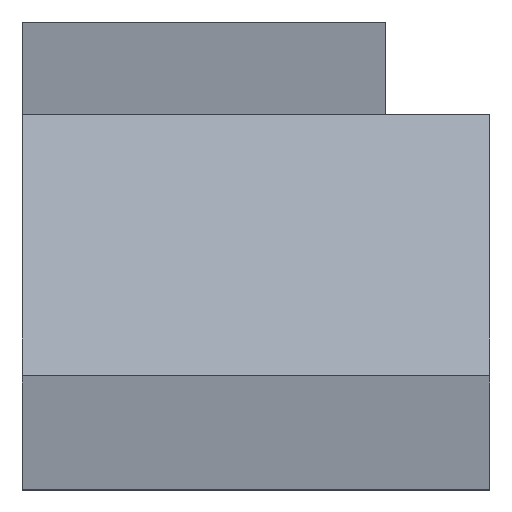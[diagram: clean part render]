
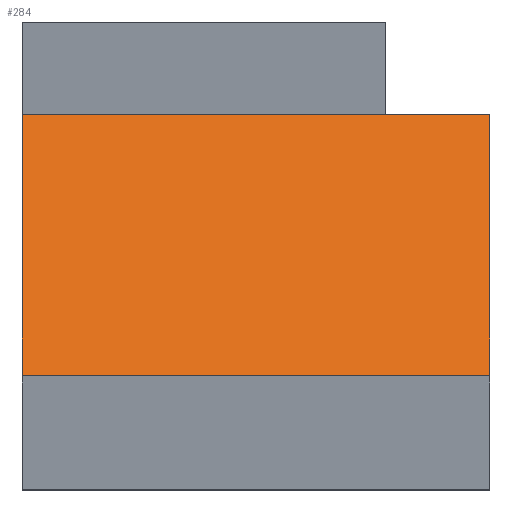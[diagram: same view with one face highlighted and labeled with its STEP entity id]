
A CAD part, top view. The second image highlights one B-rep face of the part: STEP entity #284.
In plain terms, the highlighted planar face has unit normal (0, 0.375, 0.927).
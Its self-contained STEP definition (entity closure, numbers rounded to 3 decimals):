
#24=FACE_OUTER_BOUND('',#39,.T.);
#39=EDGE_LOOP('',(#228,#229,#230,#231,#232));
#53=LINE('',#409,#91);
#58=LINE('',#419,#96);
#73=LINE('',#448,#111);
#74=LINE('',#451,#112);
#75=LINE('',#452,#113);
#91=VECTOR('',#335,10.);
#96=VECTOR('',#344,10.);
#111=VECTOR('',#367,10.);
#112=VECTOR('',#370,10.);
#113=VECTOR('',#371,10.);
#125=VERTEX_POINT('',#400);
#128=VERTEX_POINT('',#408);
#131=VERTEX_POINT('',#418);
#141=VERTEX_POINT('',#446);
#142=VERTEX_POINT('',#450);
#154=EDGE_CURVE('',#128,#125,#53,.T.);
#159=EDGE_CURVE('',#131,#128,#58,.T.);
#174=EDGE_CURVE('',#125,#141,#73,.T.);
#175=EDGE_CURVE('',#142,#141,#74,.T.);
#176=EDGE_CURVE('',#131,#142,#75,.T.);
#228=ORIENTED_EDGE('',*,*,#159,.T.);
#229=ORIENTED_EDGE('',*,*,#154,.T.);
#230=ORIENTED_EDGE('',*,*,#174,.T.);
#231=ORIENTED_EDGE('',*,*,#175,.F.);
#232=ORIENTED_EDGE('',*,*,#176,.F.);
#269=PLANE('',#313);
#284=ADVANCED_FACE('',(#24),#269,.T.);
#313=AXIS2_PLACEMENT_3D('',#449,#368,#369);
#335=DIRECTION('',(-1.,0.,0.));
#344=DIRECTION('',(0.,0.927,-0.375));
#367=DIRECTION('',(-1.,0.,0.));
#368=DIRECTION('center_axis',(0.,0.375,0.927));
#369=DIRECTION('ref_axis',(0.,0.927,-0.375));
#370=DIRECTION('',(0.,0.927,-0.375));
#371=DIRECTION('',(-1.,0.,0.));
#400=CARTESIAN_POINT('',(-25.,89.83,34.839));
#408=CARTESIAN_POINT('',(0.,89.83,34.839));
#409=CARTESIAN_POINT('',(0.,89.83,34.839));
#418=CARTESIAN_POINT('',(0.,27.418,60.055));
#419=CARTESIAN_POINT('',(0.,27.418,60.055));
#446=CARTESIAN_POINT('',(-112.,89.83,34.839));
#448=CARTESIAN_POINT('',(0.,89.83,34.839));
#449=CARTESIAN_POINT('Origin',(0.,27.418,60.055));
#450=CARTESIAN_POINT('',(-112.,27.418,60.055));
#451=CARTESIAN_POINT('',(-112.,27.418,60.055));
#452=CARTESIAN_POINT('',(0.,27.418,60.055));
